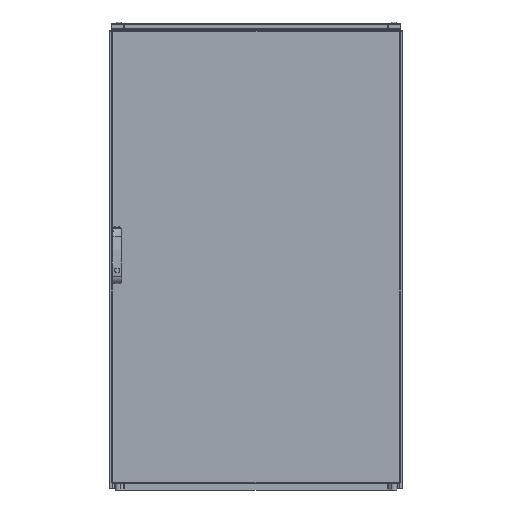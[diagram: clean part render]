
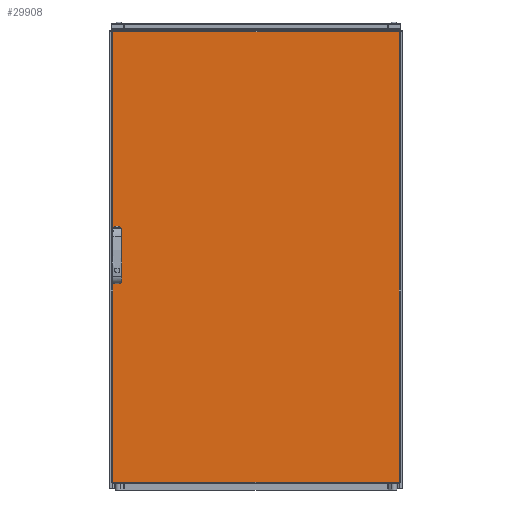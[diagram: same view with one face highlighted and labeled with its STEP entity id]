
A CAD part, front view. The second image highlights one B-rep face of the part: STEP entity #29908.
In plain terms, the highlighted planar face has unit normal (0, -1, 0).
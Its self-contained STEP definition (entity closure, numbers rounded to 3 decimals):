
#1852=CIRCLE('',#32519,9.5);
#1853=CIRCLE('',#32520,9.5);
#1854=CIRCLE('',#32521,9.5);
#1855=CIRCLE('',#32522,9.5);
#7630=ORIENTED_EDGE('',*,*,#13546,.T.);
#7631=ORIENTED_EDGE('',*,*,#13547,.T.);
#7632=ORIENTED_EDGE('',*,*,#13548,.T.);
#7633=ORIENTED_EDGE('',*,*,#13549,.T.);
#7634=ORIENTED_EDGE('',*,*,#13550,.T.);
#7635=ORIENTED_EDGE('',*,*,#13551,.T.);
#7636=ORIENTED_EDGE('',*,*,#13552,.T.);
#7637=ORIENTED_EDGE('',*,*,#13553,.T.);
#7638=ORIENTED_EDGE('',*,*,#13554,.T.);
#7639=ORIENTED_EDGE('',*,*,#13555,.T.);
#7640=ORIENTED_EDGE('',*,*,#13556,.T.);
#7641=ORIENTED_EDGE('',*,*,#13557,.T.);
#13546=EDGE_CURVE('',#16967,#16968,#19795,.T.);
#13547=EDGE_CURVE('',#16968,#16969,#19796,.F.);
#13548=EDGE_CURVE('',#16969,#16970,#19797,.F.);
#13549=EDGE_CURVE('',#16970,#16967,#19798,.T.);
#13550=EDGE_CURVE('',#16971,#16972,#1852,.T.);
#13551=EDGE_CURVE('',#16972,#16973,#19799,.T.);
#13552=EDGE_CURVE('',#16973,#16974,#1853,.T.);
#13553=EDGE_CURVE('',#16974,#16971,#19800,.T.);
#13554=EDGE_CURVE('',#16975,#16976,#1854,.T.);
#13555=EDGE_CURVE('',#16976,#16977,#19801,.T.);
#13556=EDGE_CURVE('',#16977,#16978,#1855,.T.);
#13557=EDGE_CURVE('',#16978,#16975,#19802,.T.);
#16967=VERTEX_POINT('',#48374);
#16968=VERTEX_POINT('',#48375);
#16969=VERTEX_POINT('',#48377);
#16970=VERTEX_POINT('',#48379);
#16971=VERTEX_POINT('',#48382);
#16972=VERTEX_POINT('',#48383);
#16973=VERTEX_POINT('',#48385);
#16974=VERTEX_POINT('',#48387);
#16975=VERTEX_POINT('',#48390);
#16976=VERTEX_POINT('',#48391);
#16977=VERTEX_POINT('',#48393);
#16978=VERTEX_POINT('',#48395);
#19795=LINE('',#48373,#22360);
#19796=LINE('',#48376,#22361);
#19797=LINE('',#48378,#22362);
#19798=LINE('',#48380,#22363);
#19799=LINE('',#48384,#22364);
#19800=LINE('',#48388,#22365);
#19801=LINE('',#48392,#22366);
#19802=LINE('',#48396,#22367);
#22360=VECTOR('',#39262,1000.);
#22361=VECTOR('',#39263,1000.);
#22362=VECTOR('',#39264,1000.);
#22363=VECTOR('',#39265,1000.);
#22364=VECTOR('',#39268,1000.);
#22365=VECTOR('',#39271,1000.);
#22366=VECTOR('',#39274,1000.);
#22367=VECTOR('',#39277,1000.);
#24536=EDGE_LOOP('',(#7630,#7631,#7632,#7633));
#24537=EDGE_LOOP('',(#7634,#7635,#7636,#7637));
#24538=EDGE_LOOP('',(#7638,#7639,#7640,#7641));
#26972=FACE_BOUND('',#24536,.T.);
#26973=FACE_BOUND('',#24537,.T.);
#26974=FACE_BOUND('',#24538,.T.);
#28673=PLANE('',#32518);
#29908=ADVANCED_FACE('',(#26972,#26973,#26974),#28673,.F.);
#32518=AXIS2_PLACEMENT_3D('',#48372,#39260,#39261);
#32519=AXIS2_PLACEMENT_3D('',#48381,#39266,#39267);
#32520=AXIS2_PLACEMENT_3D('',#48386,#39269,#39270);
#32521=AXIS2_PLACEMENT_3D('',#48389,#39272,#39273);
#32522=AXIS2_PLACEMENT_3D('',#48394,#39275,#39276);
#39260=DIRECTION('',(0.,1.,0.));
#39261=DIRECTION('',(0.,0.,1.));
#39262=DIRECTION('',(1.,0.,0.));
#39263=DIRECTION('',(0.,0.,-1.));
#39264=DIRECTION('',(1.,0.,0.));
#39265=DIRECTION('',(0.,0.,-1.));
#39266=DIRECTION('',(0.,1.,0.));
#39267=DIRECTION('',(1.,0.,0.));
#39268=DIRECTION('',(0.,0.,1.));
#39269=DIRECTION('',(0.,1.,0.));
#39270=DIRECTION('',(1.,0.,0.));
#39271=DIRECTION('',(0.,0.,-1.));
#39272=DIRECTION('',(0.,1.,0.));
#39273=DIRECTION('',(1.,0.,0.));
#39274=DIRECTION('',(0.,0.,1.));
#39275=DIRECTION('',(0.,1.,0.));
#39276=DIRECTION('',(1.,0.,0.));
#39277=DIRECTION('',(0.,0.,-1.));
#48372=CARTESIAN_POINT('',(-497.5,-19.,780.));
#48373=CARTESIAN_POINT('',(-497.5,-19.,-777.));
#48374=CARTESIAN_POINT('',(-494.5,-19.,-777.));
#48375=CARTESIAN_POINT('',(494.5,-19.,-777.));
#48376=CARTESIAN_POINT('',(494.5,-19.,780.));
#48377=CARTESIAN_POINT('',(494.5,-19.,777.));
#48378=CARTESIAN_POINT('',(-497.5,-19.,777.));
#48379=CARTESIAN_POINT('',(-494.5,-19.,777.));
#48380=CARTESIAN_POINT('',(-494.5,-19.,780.));
#48381=CARTESIAN_POINT('',(-478.3,-19.,32.25));
#48382=CARTESIAN_POINT('',(-468.8,-19.,32.25));
#48383=CARTESIAN_POINT('',(-487.8,-19.,32.25));
#48384=CARTESIAN_POINT('',(-487.8,-19.,32.25));
#48385=CARTESIAN_POINT('',(-487.8,-19.,80.25));
#48386=CARTESIAN_POINT('',(-478.3,-19.,80.25));
#48387=CARTESIAN_POINT('',(-468.8,-19.,80.25));
#48388=CARTESIAN_POINT('',(-468.8,-19.,80.25));
#48389=CARTESIAN_POINT('',(-478.3,-19.,-80.25));
#48390=CARTESIAN_POINT('',(-468.8,-19.,-80.25));
#48391=CARTESIAN_POINT('',(-487.8,-19.,-80.25));
#48392=CARTESIAN_POINT('',(-487.8,-19.,-80.25));
#48393=CARTESIAN_POINT('',(-487.8,-19.,-32.25));
#48394=CARTESIAN_POINT('',(-478.3,-19.,-32.25));
#48395=CARTESIAN_POINT('',(-468.8,-19.,-32.25));
#48396=CARTESIAN_POINT('',(-468.8,-19.,-32.25));
